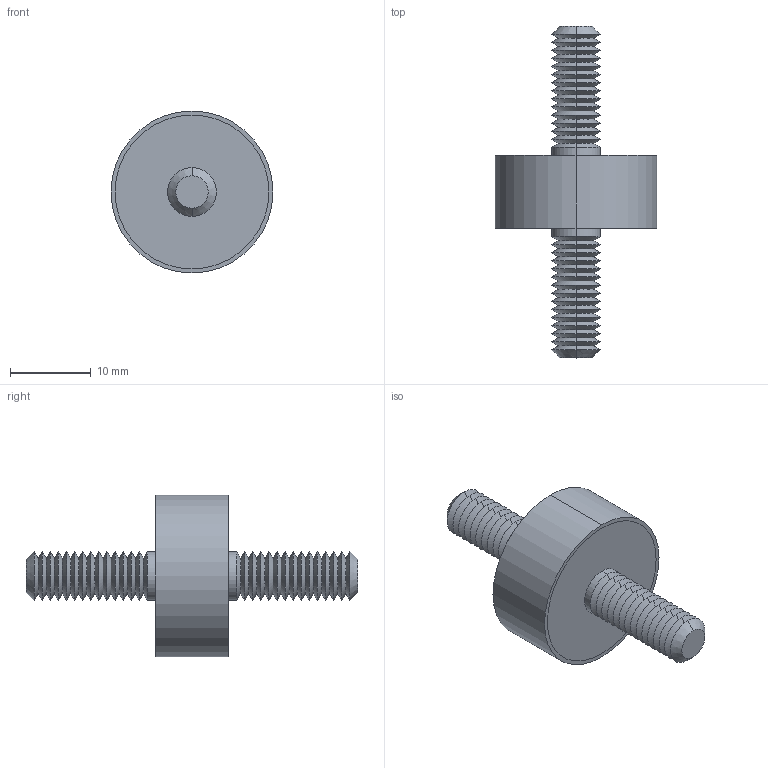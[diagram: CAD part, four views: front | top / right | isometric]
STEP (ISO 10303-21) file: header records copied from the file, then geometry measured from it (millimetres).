
FILE_DESCRIPTION (( 'STEP AP203' ), '1' );
FILE_NAME ('61040.W0202.step', '2019-09-24T22:28:50', ( '' ), ( '' ), 'SwSTEP 2.0', 'SolidWorks 2017', '' );
FILE_SCHEMA (( 'CONFIG_CONTROL_DESIGN' ));
Length unit declared in the file: millimetre
Products named in the file (4): 61040.W0202; Part3_61040.W0202; Part2_61040.W0202; Part1_61040.W0202
Assembly tree (3 placements, depth 2):
  61040.W0202
    Part1_61040.W0202
    Part2_61040.W0202
    Part3_61040.W0202
Bounding box: 20 x 41 x 20 mm (x, y, z)
Volume: 3508.9 mm3; surface area: 3401.2 mm2
Topology: 3 solids, 3 shells, 140 faces, 274 edges, 144 vertices
Faces by surface type: cone 116, cylinder 14, plane 10
Entity records: 3908 total; most frequent: DIRECTION 710, CARTESIAN_POINT 564, ORIENTED_EDGE 548, AXIS2_PLACEMENT_3D 290, EDGE_CURVE 274, VERTEX_POINT 144, CIRCLE 144, EDGE_LOOP 144
